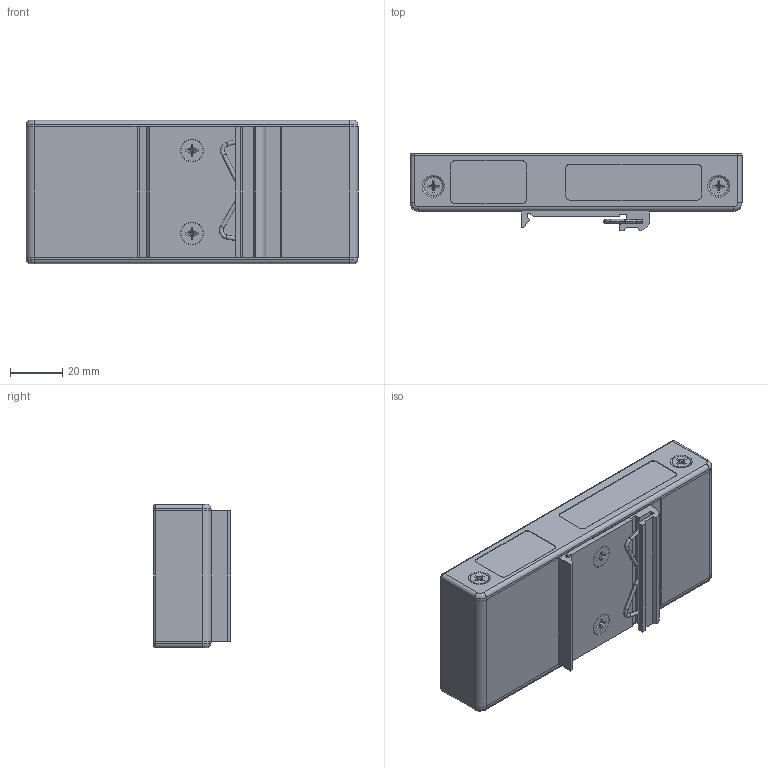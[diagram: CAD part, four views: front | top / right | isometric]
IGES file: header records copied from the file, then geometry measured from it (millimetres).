
Start section:  PTC IGES file: cu_cfp_din_rail_cont.igs
Global section: file name: cu_cfp_din_rail_cont.igs; native system: Pro/ENGINEER by Parametric Technology Corporation; preprocessor: 2006300; author: chrisj; organization: Unknown; date: 20070716.144232; units: inch
Bounding box: 127 x 29.57 x 54.86 mm (x, y, z)
Surface area: 35038.7 mm2 (no closed solid volume)
Topology: 0 solids, 0 shells, 1108 faces, 5940 edges, 5820 vertices
Faces by surface type: bspline 945, revolution 163
